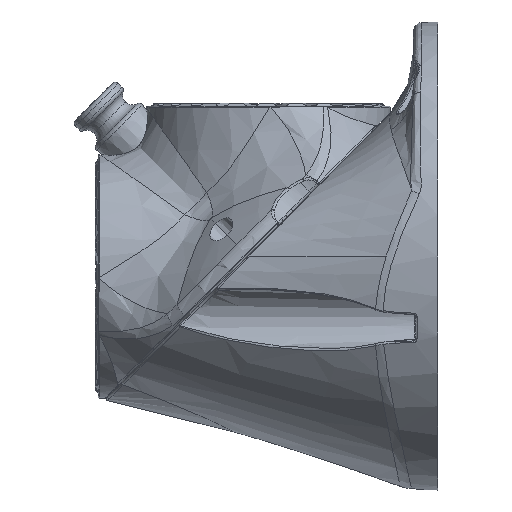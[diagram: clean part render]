
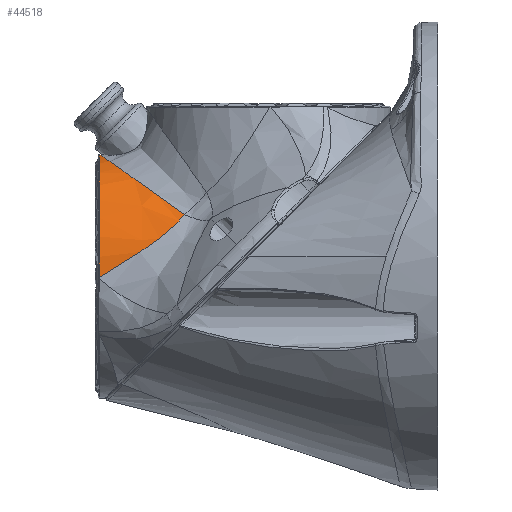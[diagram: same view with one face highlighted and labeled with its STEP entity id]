
A CAD part, left-side view. The second image highlights one B-rep face of the part: STEP entity #44518.
In plain terms, the highlighted conical face has half-angle 2 degrees and reference radius 31 mm.
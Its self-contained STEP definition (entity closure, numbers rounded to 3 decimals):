
#680 = CARTESIAN_POINT ( 'NONE',  ( 0., 75.142, -5. ) ) ;
#2618 = CARTESIAN_POINT ( 'NONE',  ( -6.139, 96.937, 24.612 ) ) ;
#3701 = CARTESIAN_POINT ( 'NONE',  ( -26.935, 76.721, 10.235 ) ) ;
#4058 = CARTESIAN_POINT ( 'NONE',  ( -22.348, 84.825, 16.022 ) ) ;
#4109 = CARTESIAN_POINT ( 'NONE',  ( -27.585, 77.856, 8.941 ) ) ;
#5539 = ORIENTED_EDGE ( 'NONE', *, *, #58774, .F. ) ;
#7432 = CARTESIAN_POINT ( 'NONE',  ( -30.267, 93.467, -2.615 ) ) ;
#7806 = EDGE_CURVE ( 'NONE', #36405, #14468, #29865, .T. ) ;
#8474 = CARTESIAN_POINT ( 'NONE',  ( -18.311, 89.569, 19.395 ) ) ;
#8554 = CARTESIAN_POINT ( 'NONE',  ( -1.915, 97.701, 25.151 ) ) ;
#9243 = CARTESIAN_POINT ( 'NONE',  ( -29.881, 86.956, 1.538 ) ) ;
#9603 = CARTESIAN_POINT ( 'NONE',  ( -28.805, 81.038, 5.919 ) ) ;
#11932 = B_SPLINE_CURVE_WITH_KNOTS ( 'NONE', 3,
 ( #3701, #53275, #26074, #4058, #48844, #58798, #26441, #70874, #8474, #59521, #19831, #36025, #30504, #20556, #52912, #42237, #48118, #2618, #15054, #53646, #64659, #14325, #24987, #37087 ),
 .UNSPECIFIED., .F., .F.,
 ( 4, 2, 2, 2, 2, 2, 2, 2, 2, 2, 2, 4 ),
 ( 0.004, 0.014, 0.018, 0.021, 0.023, 0.028, 0.03, 0.033, 0.037, 0.039, 0.04, 0.042 ),
 .UNSPECIFIED. ) ;
#12234 = CARTESIAN_POINT ( 'NONE',  ( -30.224, 91.722, -1.542 ) ) ;
#12931 = CARTESIAN_POINT ( 'NONE',  ( -30.259, 96.152, -4.263 ) ) ;
#13660 = CARTESIAN_POINT ( 'NONE',  ( -30.035, 88.529, 0.493 ) ) ;
#14016 = CARTESIAN_POINT ( 'NONE',  ( -27.879, 78.479, 8.293 ) ) ;
#14325 = CARTESIAN_POINT ( 'NONE',  ( -3.469, 97.527, 25.028 ) ) ;
#14468 = VERTEX_POINT ( 'NONE', #43390 ) ;
#14742 = CARTESIAN_POINT ( 'NONE',  ( -29.597, 84.767, 3.049 ) ) ;
#15054 = CARTESIAN_POINT ( 'NONE',  ( -5.76, 97.039, 24.684 ) ) ;
#17911 = ORIENTED_EDGE ( 'NONE', *, *, #22319, .T. ) ;
#18405 = EDGE_CURVE ( 'NONE', #28024, #35236, #11932, .T. ) ;
#18450 = CARTESIAN_POINT ( 'NONE',  ( -30.27, 95.373, -3.786 ) ) ;
#19160 = CARTESIAN_POINT ( 'NONE',  ( -30.157, 90.263, -0.625 ) ) ;
#19477 = CARTESIAN_POINT ( 'NONE',  ( -1.519, 97.846, 25.17 ) ) ;
#19831 = CARTESIAN_POINT ( 'NONE',  ( -15.698, 91.948, 21.082 ) ) ;
#20422 = EDGE_LOOP ( 'NONE', ( #5539, #54002, #17911, #40041 ) ) ;
#20556 = CARTESIAN_POINT ( 'NONE',  ( -12.069, 94.417, 22.831 ) ) ;
#22319 = EDGE_CURVE ( 'NONE', #14468, #28024, #48303, .T. ) ;
#22884 = CARTESIAN_POINT ( 'NONE',  ( -26.935, 76.721, 10.235 ) ) ;
#24318 = CARTESIAN_POINT ( 'NONE',  ( -30.209, 91.312, -1.288 ) ) ;
#24987 = CARTESIAN_POINT ( 'NONE',  ( -2.696, 97.634, 25.104 ) ) ;
#26074 = CARTESIAN_POINT ( 'NONE',  ( -24.599, 81.467, 13.629 ) ) ;
#26441 = CARTESIAN_POINT ( 'NONE',  ( -19.753, 88.044, 18.312 ) ) ;
#26491 = CARTESIAN_POINT ( 'NONE',  ( -29.279, 82.917, 4.398 ) ) ;
#28024 = VERTEX_POINT ( 'NONE', #22884 ) ;
#28769 = CARTESIAN_POINT ( 'NONE',  ( -30.215, 97.593, -5.144 ) ) ;
#29772 = CARTESIAN_POINT ( 'NONE',  ( -1.718, 97.779, 25.161 ) ) ;
#29824 = CARTESIAN_POINT ( 'NONE',  ( -30.24, 92.205, -1.839 ) ) ;
#29865 = CIRCLE ( 'NONE', #39259, 30.205 ) ;
#30194 = CARTESIAN_POINT ( 'NONE',  ( -30.273, 94.031, -2.962 ) ) ;
#30504 = CARTESIAN_POINT ( 'NONE',  ( -13.333, 93.637, 22.278 ) ) ;
#30862 = DIRECTION ( 'NONE',  ( 0., 0., -1. ) ) ;
#31643 = CARTESIAN_POINT ( 'NONE',  ( -29.765, 85.996, 2.194 ) ) ;
#32941 = AXIS2_PLACEMENT_3D ( 'NONE', #680, #33356, #67140 ) ;
#33356 = DIRECTION ( 'NONE',  ( 0., -1., 0. ) ) ;
#35236 = VERTEX_POINT ( 'NONE', #8554 ) ;
#35699 = CARTESIAN_POINT ( 'NONE',  ( -30.274, 94.666, -3.352 ) ) ;
#36025 = CARTESIAN_POINT ( 'NONE',  ( -13.94, 93.227, 21.988 ) ) ;
#36405 = VERTEX_POINT ( 'NONE', #40454 ) ;
#37087 = CARTESIAN_POINT ( 'NONE',  ( -1.915, 97.701, 25.151 ) ) ;
#37497 = CARTESIAN_POINT ( 'NONE',  ( -29.936, 87.463, 1.198 ) ) ;
#39216 = FACE_OUTER_BOUND ( 'NONE', #20422, .T. ) ;
#39259 = AXIS2_PLACEMENT_3D ( 'NONE', #52549, #48461, #30862 ) ;
#40041 = ORIENTED_EDGE ( 'NONE', *, *, #18405, .T. ) ;
#40454 = CARTESIAN_POINT ( 'NONE',  ( -1.315, 97.901, 25.177 ) ) ;
#40850 = CARTESIAN_POINT ( 'NONE',  ( -30.259, 92.974, -2.313 ) ) ;
#41208 = CARTESIAN_POINT ( 'NONE',  ( -30.08, 89.089, 0.129 ) ) ;
#42237 = CARTESIAN_POINT ( 'NONE',  ( -9.409, 95.808, 23.814 ) ) ;
#43012 = CARTESIAN_POINT ( 'NONE',  ( -27.274, 77.268, 9.586 ) ) ;
#43390 = CARTESIAN_POINT ( 'NONE',  ( -30.203, 97.901, -5.332 ) ) ;
#44518 = ADVANCED_FACE ( 'NONE', ( #39216 ), #49340, .T. ) ;
#45052 = B_SPLINE_CURVE_WITH_KNOTS ( 'NONE', 3,
 ( #69794, #19477, #29772, #52188 ),
 .UNSPECIFIED., .F., .F.,
 ( 4, 4 ),
 ( 0.016, 0.017 ),
 .UNSPECIFIED. ) ;
#46726 = CARTESIAN_POINT ( 'NONE',  ( -30.189, 90.877, -1.013 ) ) ;
#47078 = CARTESIAN_POINT ( 'NONE',  ( -30.203, 97.901, -5.332 ) ) ;
#48118 = CARTESIAN_POINT ( 'NONE',  ( -8.003, 96.383, 24.221 ) ) ;
#48303 = B_SPLINE_CURVE_WITH_KNOTS ( 'NONE', 3,
 ( #47078, #28769, #68773, #12931, #18450, #35699, #30194, #7432, #40850, #58116, #29824, #62548, #12234, #69482, #24318, #46726, #19160, #69122, #41208, #13660, #51172, #37497, #9243, #59573, #31643, #14742, #26491, #9603, #65787, #58847, #14016, #4109, #43012, #65070, #58487 ),
 .UNSPECIFIED., .F., .F.,
 ( 4, 1, 1, 1, 1, 1, 1, 1, 1, 1, 1, 1, 1, 1, 1, 1, 1, 1, 1, 1, 1, 1, 1, 1, 1, 1, 1, 1, 1, 1, 1, 1, 4 ),
 ( 0.005, 0.045, 0.082, 0.116, 0.147, 0.174, 0.199, 0.221, 0.239, 0.254, 0.266, 0.275, 0.281, 0.284, 0.311, 0.339, 0.365, 0.39, 0.415, 0.439, 0.463, 0.486, 0.508, 0.529, 0.55, 0.676, 0.787, 0.824, 0.861, 0.897, 0.932, 0.966, 1. ),
 .UNSPECIFIED. ) ;
#48461 = DIRECTION ( 'NONE',  ( 0., -1., 0. ) ) ;
#48844 = CARTESIAN_POINT ( 'NONE',  ( -21.538, 85.92, 16.801 ) ) ;
#49340 = CONICAL_SURFACE ( 'NONE', #32941, 31., 0.035 ) ;
#51172 = CARTESIAN_POINT ( 'NONE',  ( -29.987, 87.987, 0.85 ) ) ;
#52188 = CARTESIAN_POINT ( 'NONE',  ( -1.915, 97.701, 25.151 ) ) ;
#52549 = CARTESIAN_POINT ( 'NONE',  ( 0., 97.901, -5. ) ) ;
#52912 = CARTESIAN_POINT ( 'NONE',  ( -11.415, 94.786, 23.092 ) ) ;
#53275 = CARTESIAN_POINT ( 'NONE',  ( -25.862, 79.132, 11.961 ) ) ;
#53646 = CARTESIAN_POINT ( 'NONE',  ( -5., 97.225, 24.815 ) ) ;
#54002 = ORIENTED_EDGE ( 'NONE', *, *, #7806, .T. ) ;
#58116 = CARTESIAN_POINT ( 'NONE',  ( -30.249, 92.554, -2.054 ) ) ;
#58487 = CARTESIAN_POINT ( 'NONE',  ( -26.935, 76.721, 10.235 ) ) ;
#58774 = EDGE_CURVE ( 'NONE', #36405, #35236, #45052, .T. ) ;
#58798 = CARTESIAN_POINT ( 'NONE',  ( -20.214, 87.518, 17.938 ) ) ;
#58847 = CARTESIAN_POINT ( 'NONE',  ( -28.155, 79.139, 7.642 ) ) ;
#59521 = CARTESIAN_POINT ( 'NONE',  ( -16.785, 91.029, 20.43 ) ) ;
#59573 = CARTESIAN_POINT ( 'NONE',  ( -29.824, 86.467, 1.87 ) ) ;
#62548 = CARTESIAN_POINT ( 'NONE',  ( -30.231, 91.928, -1.669 ) ) ;
#64659 = CARTESIAN_POINT ( 'NONE',  ( -4.619, 97.308, 24.873 ) ) ;
#65070 = CARTESIAN_POINT ( 'NONE',  ( -27.047, 76.902, 10.02 ) ) ;
#65787 = CARTESIAN_POINT ( 'NONE',  ( -28.412, 79.835, 6.991 ) ) ;
#67140 = DIRECTION ( 'NONE',  ( 0., 0., -1. ) ) ;
#68773 = CARTESIAN_POINT ( 'NONE',  ( -30.238, 97.002, -4.783 ) ) ;
#69122 = CARTESIAN_POINT ( 'NONE',  ( -30.12, 89.667, -0.244 ) ) ;
#69482 = CARTESIAN_POINT ( 'NONE',  ( -30.219, 91.588, -1.46 ) ) ;
#69794 = CARTESIAN_POINT ( 'NONE',  ( -1.315, 97.901, 25.177 ) ) ;
#70874 = CARTESIAN_POINT ( 'NONE',  ( -18.803, 89.069, 19.04 ) ) ;
